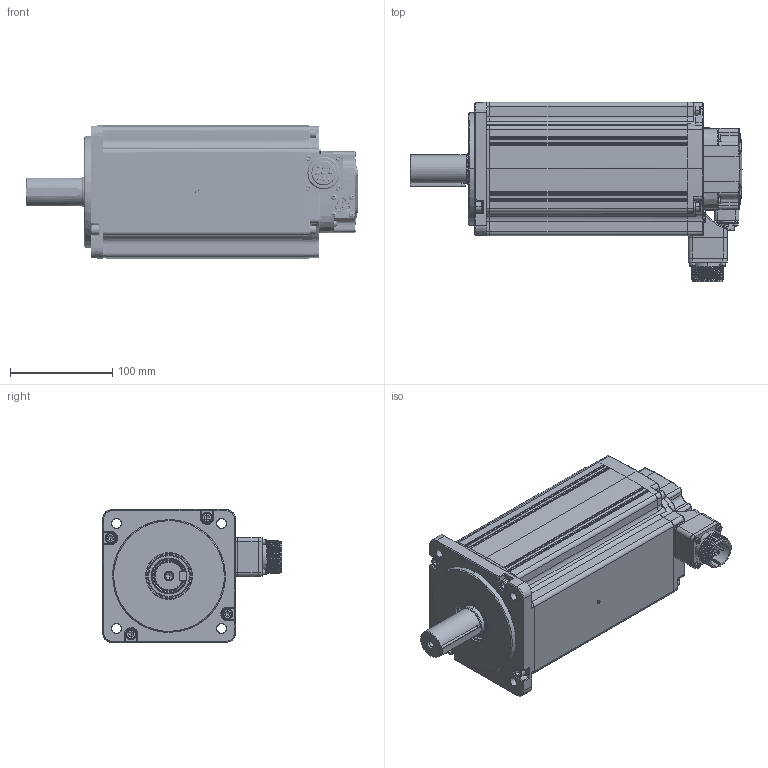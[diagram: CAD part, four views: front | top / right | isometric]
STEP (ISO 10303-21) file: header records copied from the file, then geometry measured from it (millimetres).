
FILE_DESCRIPTION (( 'STEP AP203' ), '1' );
FILE_NAME ('EM3A-130法兰(不带抱闸)外形图.STEP', '2022-07-27T02:10:53', ( '' ), ( '' ), 'SwSTEP 2.0', 'SolidWorks 2018', '' );
FILE_SCHEMA (( 'CONFIG_CONTROL_DESIGN' ));
Products named in the file (1): EM3A-130法兰(不带抱闸)外形图
Bounding box: 324 x 174.95 x 130 mm (x, y, z)
Volume: 3664465.3 mm3; surface area: 226209.9 mm2
Topology: 41 solids, 41 shells, 3784 faces, 10478 edges, 6762 vertices
Faces by surface type: plane 1429, cylinder 1084, bspline 781, cone 490
Entity records: 227826 total; most frequent: CARTESIAN_POINT 140994, ORIENTED_EDGE 20682, DIRECTION 14276, EDGE_CURVE 10341, VERTEX_POINT 6762, AXIS2_PLACEMENT_3D 5022, LINE 4232, VECTOR 4232
